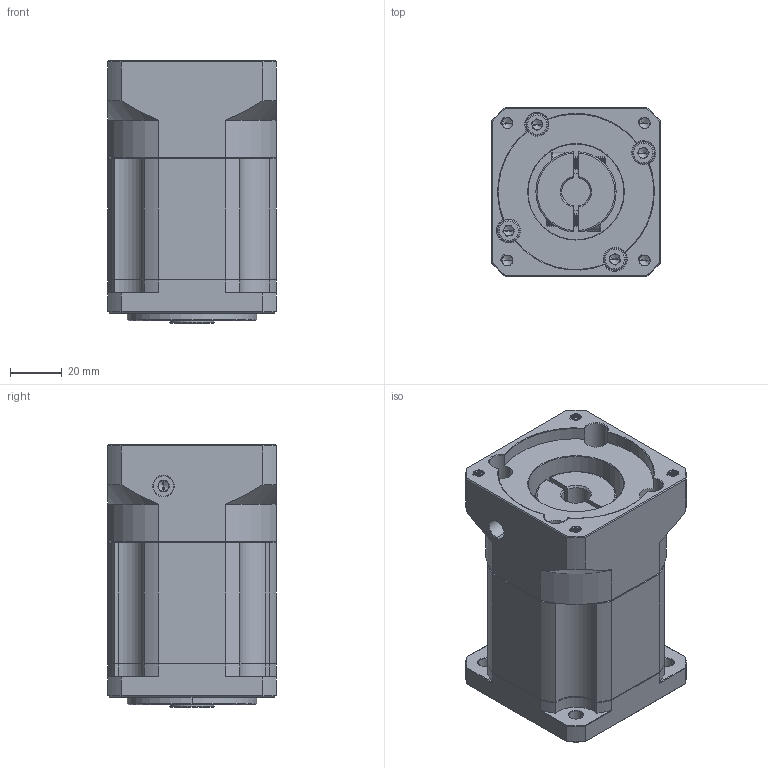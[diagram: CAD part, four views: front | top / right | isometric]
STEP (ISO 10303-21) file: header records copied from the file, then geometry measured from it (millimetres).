
FILE_DESCRIPTION (( 'STEP AP214' ), '1' );
FILE_NAME ('ZB60-K10-L2-11-60-75-M5.STEP', '2022-04-17T07:36:40', ( '' ), ( 'Microsoft' ), 'SwSTEP 2.0', 'SolidWorks 2016', '' );
FILE_SCHEMA (( 'AUTOMOTIVE_DESIGN' ));
Length unit declared in the file: millimetre
Products named in the file (1): ZB60-K10-L2-11-60-75-M5
Bounding box: 65 x 65 x 101.5 mm (x, y, z)
Volume: 318908 mm3; surface area: 57545.4 mm2
Topology: 6 solids, 6 shells, 1841 faces, 4890 edges, 3131 vertices
Faces by surface type: plane 876, cylinder 357, bspline 292, cone 282, torus 34
Entity records: 96283 total; most frequent: CARTESIAN_POINT 32405, ORIENTED_EDGE 9724, DIRECTION 8061, EDGE_CURVE 4862, VERTEX_POINT 3131, LINE 2987, VECTOR 2987, AXIS2_PLACEMENT_3D 2537
